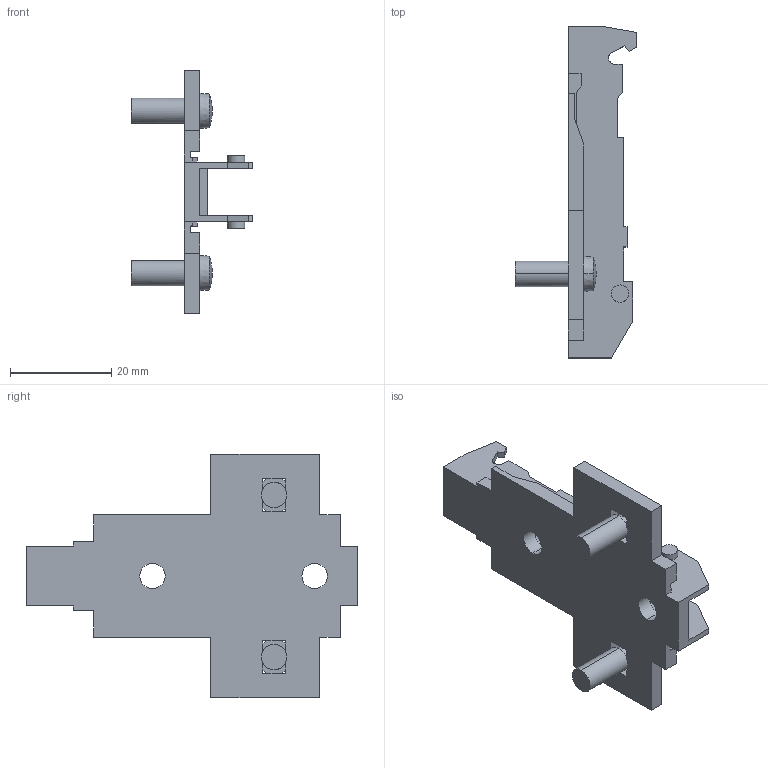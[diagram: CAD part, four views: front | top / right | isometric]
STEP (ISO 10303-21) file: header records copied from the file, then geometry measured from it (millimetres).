
FILE_DESCRIPTION (( 'STEP AP214' ), '1' );
FILE_NAME ('1D_Kreuzmontageplatte 28_32_5mm_Dübel_lang_3.step', '2010-11-18T10:20:50', ( 'grass' ), ( '' ), 'SwSTEP 2.0', 'SolidWorks 2010', '' );
FILE_SCHEMA (( 'AUTOMOTIVE_DESIGN' ));
Length unit declared in the file: millimetre
Products named in the file (1): 1D_Kreuzmontageplatte 28_32_5mm_Dübel_lang_3
Bounding box: 24 x 65.5 x 48 mm (x, y, z)
Volume: 7080.9 mm3; surface area: 7549.9 mm2
Topology: 1 solids, 1 shells, 126 faces, 388 edges, 250 vertices
Faces by surface type: plane 96, cylinder 22, sphere 4, cone 4
Entity records: 4374 total; most frequent: ORIENTED_EDGE 776, CARTESIAN_POINT 765, DIRECTION 722, EDGE_CURVE 388, LINE 308, VECTOR 308, VERTEX_POINT 250, AXIS2_PLACEMENT_3D 207
